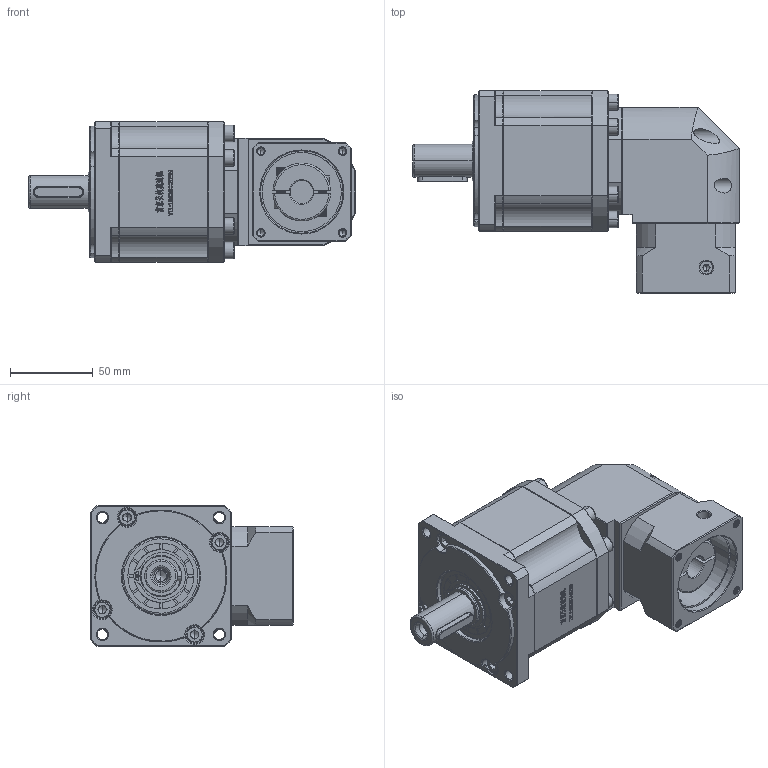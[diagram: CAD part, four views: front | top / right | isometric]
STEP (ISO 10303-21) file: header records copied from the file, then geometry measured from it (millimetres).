
FILE_DESCRIPTION (( 'STEP AP214' ), '1' );
FILE_NAME ('ZBR90-D20-L3-14-50-70-M5.step', '2022-05-07T15:17:52', ( '' ), ( 'Microsoft' ), 'SwSTEP 2.0', 'SolidWorks 2016', '' );
FILE_SCHEMA (( 'AUTOMOTIVE_DESIGN' ));
Length unit declared in the file: millimetre
Products named in the file (1): ZBR90-D20-L3-14-50-70-M5
Bounding box: 198 x 122.7 x 85 mm (x, y, z)
Volume: 920543.7 mm3; surface area: 105405 mm2
Topology: 5 solids, 5 shells, 3040 faces, 8136 edges, 5240 vertices
Faces by surface type: plane 1598, bspline 620, cylinder 445, cone 369, torus 8
Entity records: 163637 total; most frequent: CARTESIAN_POINT 58968, ORIENTED_EDGE 16180, DIRECTION 12428, EDGE_CURVE 8090, VECTOR 5350, LINE 5350, VERTEX_POINT 5240, AXIS2_PLACEMENT_3D 3539
